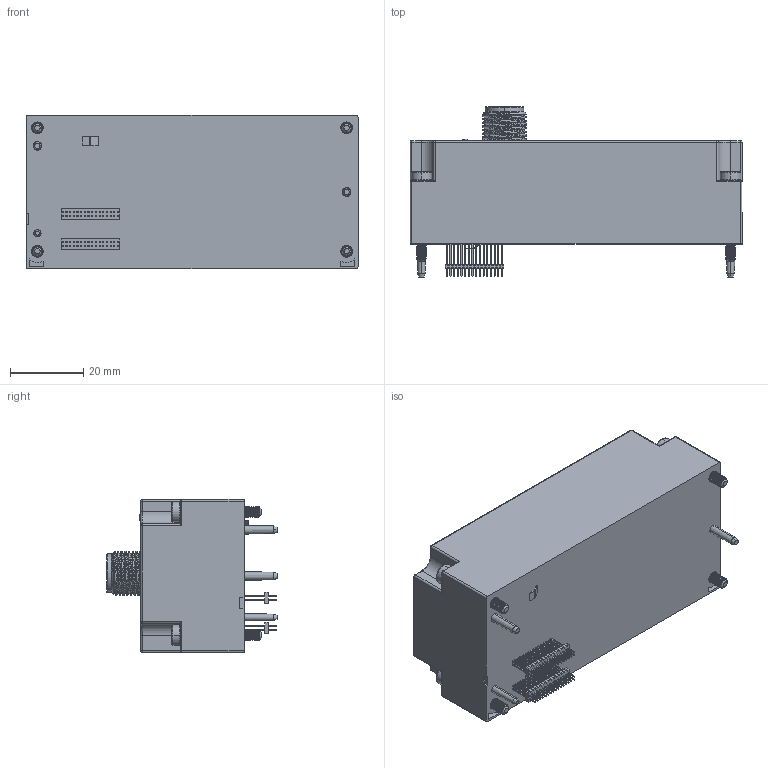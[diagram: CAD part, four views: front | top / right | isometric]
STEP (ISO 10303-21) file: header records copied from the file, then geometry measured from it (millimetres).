
FILE_DESCRIPTION (( 'STEP AP203' ), '1' );
FILE_NAME ('00BW31-IOLink.STEP', '2024-10-24T02:15:02', ( '' ), ( '' ), 'SwSTEP 2.0', 'SolidWorks 2016', '' );
FILE_SCHEMA (( 'CONFIG_CONTROL_DESIGN' ));
Products named in the file (1): 00BW31-IOLink
Bounding box: 90.5 x 46.4 x 41.85 mm (x, y, z)
Volume: 105331.2 mm3; surface area: 19964.6 mm2
Topology: 3 solids, 3 shells, 2001 faces, 5239 edges, 3447 vertices
Faces by surface type: plane 1488, cylinder 253, bspline 188, cone 54, sphere 14, torus 4
Entity records: 89295 total; most frequent: CARTESIAN_POINT 42222, ORIENTED_EDGE 10462, DIRECTION 8436, EDGE_CURVE 5231, VECTOR 3992, LINE 3992, VERTEX_POINT 3447, EDGE_LOOP 2226
